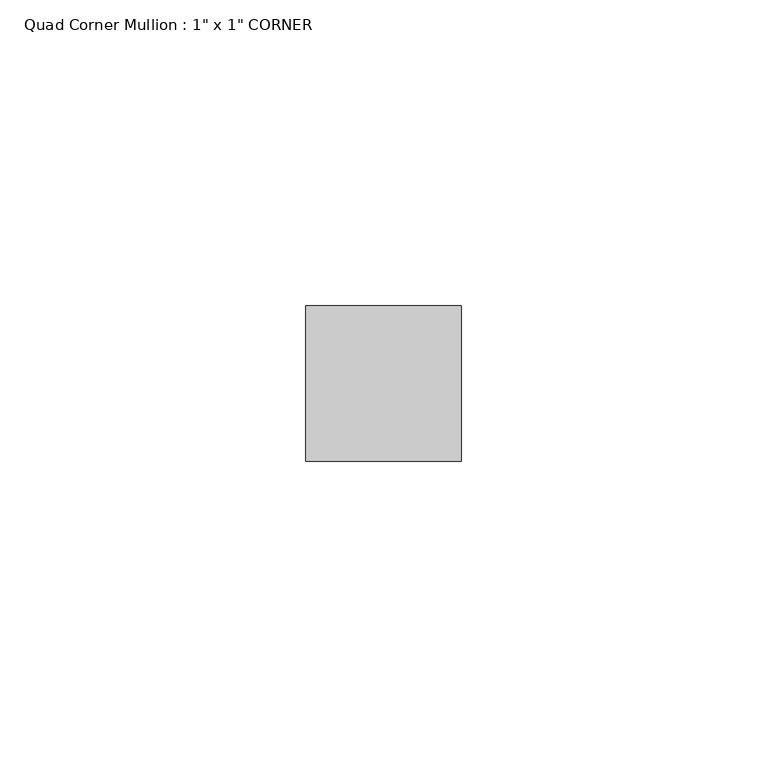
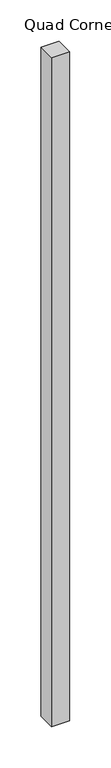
"""IFC4 building model written with IfcOpenShell, lengths in millimetres: member geometry."""

from ifc_helpers import new_model, si_unit, frame, origin, place, context, project, spatial, polyline, outline, extrude, source, transform, mapped, element, save


def member_96790493(model_context):
    return source(origin(), model_context, "Body", "SweptSolid", [
        extrude(outline(polyline([(0.0, 25.4), (0.0, 0.0), (-25.4, 0.0), (-25.4, 25.4), (0.0, 25.4)])), frame((0.0, 0.0, -990.5999994), z_axis=(0.0, 0.0, 1.0), x_axis=(1.0, 0.0, 0.0)), (0.0, 0.0, 1.0), 990.5999994),
    ])


if __name__ == "__main__":
    model = new_model("IFC4")
    model_context = context("Model", 3, world=origin())
    ifc_project = project(units=[si_unit("LENGTHUNIT", "METRE", prefix="MILLI")], contexts=[model_context])
    site = spatial("IfcSite", under=ifc_project)
    building = spatial("IfcBuilding", under=site)
    placement = place(None, origin())
    member_shape = member_96790493(model_context)
    element("IfcMember", 1, ObjectType="Quad Corner Mullion : 1\" x 1\" CORNER", at=placement, inside=building, context=model_context, shape_type="MappedRepresentation", body=[
        mapped(member_shape, transform((0.0, 0.0, 0.0), x_axis=(1.0, 0.0, 0.0), y_axis=(0.0, 1.0, 0.0), z_axis=(0.0, 0.0, 1.0))),
    ])
    save(model, "model.ifc")
